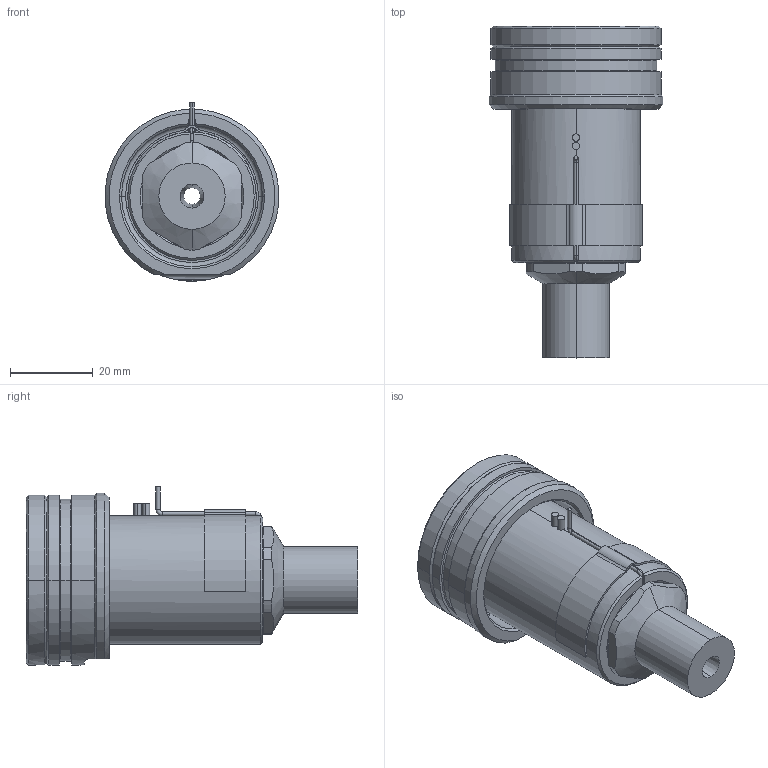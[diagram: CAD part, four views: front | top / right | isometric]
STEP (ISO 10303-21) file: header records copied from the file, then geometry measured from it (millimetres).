
FILE_DESCRIPTION((''),'2;1');
FILE_NAME('EO12_VG-FBE_STD_050_SW','2024-02-19T14:02:58',('sundharh'),(''),'CREO PARAMETRIC BY PTC INC, 2023154','CREO PARAMETRIC BY PTC INC, 2023154','');
FILE_SCHEMA(('CONFIG_CONTROL_DESIGN'));
Length unit declared in the file: millimetre
Products named in the file (1): EO12_VG-FBE_STD_050_SW
Bounding box: 41.85 x 80 x 43 mm (x, y, z)
Volume: 50317 mm3; surface area: 17685.6 mm2
Topology: 2 solids, 3 shells, 212 faces, 523 edges, 316 vertices
Faces by surface type: cylinder 73, plane 48, cone 43, torus 37, bspline 9, sphere 2
Entity records: 7088 total; most frequent: CARTESIAN_POINT 1945, DIRECTION 1152, ORIENTED_EDGE 1042, EDGE_CURVE 521, AXIS2_PLACEMENT_3D 487, VERTEX_POINT 316, CIRCLE 284, EDGE_LOOP 229
